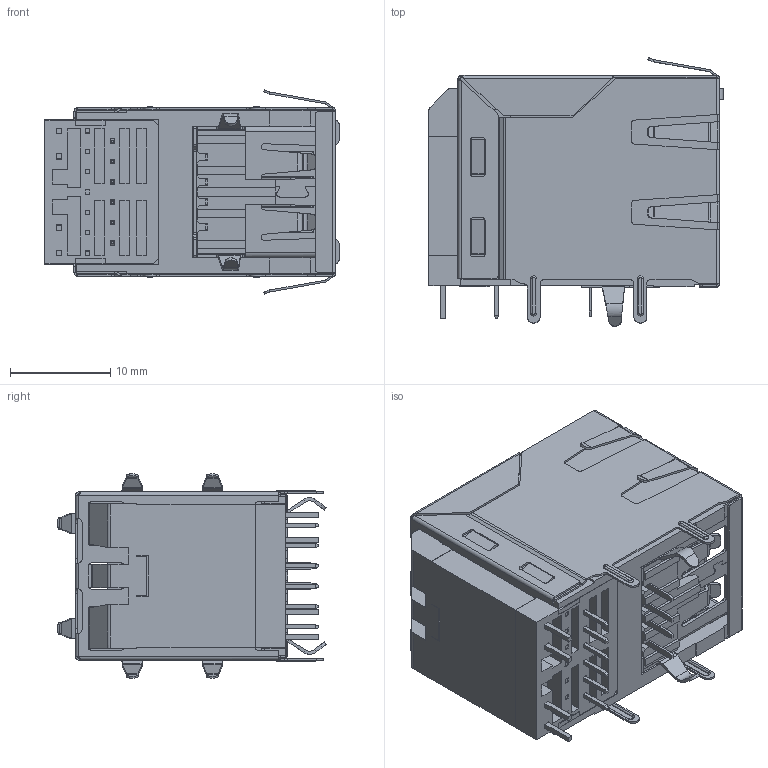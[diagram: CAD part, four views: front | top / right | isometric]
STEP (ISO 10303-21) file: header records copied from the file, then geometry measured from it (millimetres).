
FILE_DESCRIPTION((''),'2;1');
FILE_NAME('DGKYD61100900','2020-04-30T15:37:55',('Administrator'),(''),'CREO PARAMETRIC BY PTC INC, 2018400','CREO PARAMETRIC BY PTC INC, 2018400','');
FILE_SCHEMA(('CONFIG_CONTROL_DESIGN'));
Products named in the file (1): DGKYD61100900
Bounding box: 29.35 x 26.78 x 20.36 mm (x, y, z)
Volume: 3881.3 mm3; surface area: 14451.4 mm2
Topology: 14 solids, 18 shells, 2950 faces, 8361 edges, 5331 vertices
Faces by surface type: plane 2282, cylinder 608, bspline 42, torus 14, cone 4
Entity records: 95887 total; most frequent: CARTESIAN_POINT 19015, ORIENTED_EDGE 16529, DIRECTION 15037, EDGE_CURVE 8361, VECTOR 6989, LINE 6989, VERTEX_POINT 5331, AXIS2_PLACEMENT_3D 4024
